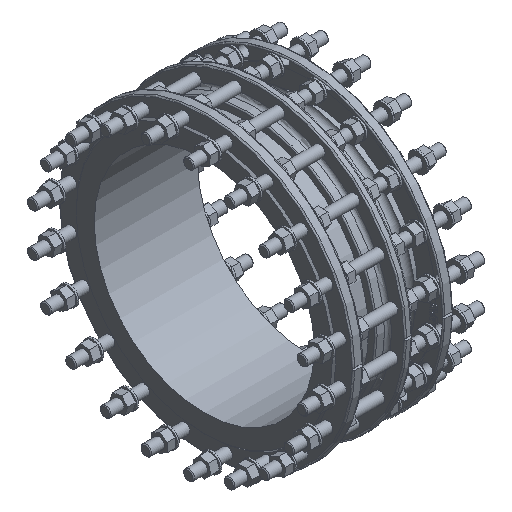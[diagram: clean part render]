
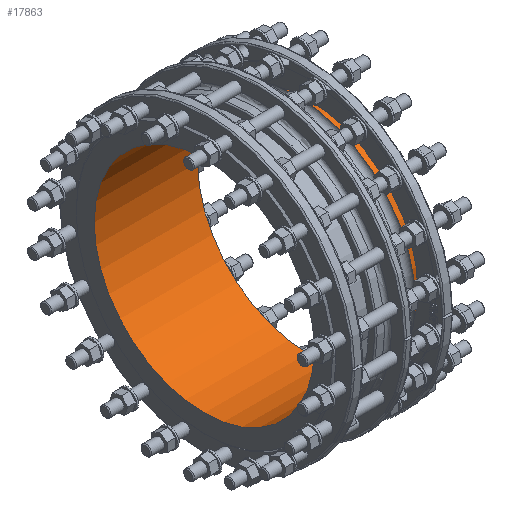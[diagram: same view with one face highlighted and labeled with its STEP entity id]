
A CAD part, isometric view. The second image highlights one B-rep face of the part: STEP entity #17863.
In plain terms, the highlighted cylindrical face has radius 250 mm (diameter 500 mm), a full revolution.
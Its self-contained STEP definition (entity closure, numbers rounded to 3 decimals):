
#2181 = CIRCLE ( 'NONE', #6721, 250. ) ;
#3681 = DIRECTION ( 'NONE',  ( 0., 0., 1. ) ) ;
#3857 = CYLINDRICAL_SURFACE ( 'NONE', #10489, 250. ) ;
#6091 = EDGE_CURVE ( 'NONE', #31946, #31946, #2181, .T. ) ;
#6717 = ORIENTED_EDGE ( 'NONE', *, *, #6091, .F. ) ;
#6721 = AXIS2_PLACEMENT_3D ( 'NONE', #26314, #19543, #30190 ) ;
#7083 = AXIS2_PLACEMENT_3D ( 'NONE', #14660, #11644, #33639 ) ;
#9162 = CARTESIAN_POINT ( 'NONE',  ( 0., 0., 0. ) ) ;
#10489 = AXIS2_PLACEMENT_3D ( 'NONE', #9162, #22652, #3681 ) ;
#10656 = CARTESIAN_POINT ( 'NONE',  ( 215., 0., 250. ) ) ;
#11644 = DIRECTION ( 'NONE',  ( 1., 0., 0. ) ) ;
#14660 = CARTESIAN_POINT ( 'NONE',  ( -20., 0., 0. ) ) ;
#17863 = ADVANCED_FACE ( 'NONE', ( #19637, #30633 ), #3857, .F. ) ;
#18995 = VERTEX_POINT ( 'NONE', #21656 ) ;
#19543 = DIRECTION ( 'NONE',  ( -1., 0., 0. ) ) ;
#19637 = FACE_OUTER_BOUND ( 'NONE', #33533, .T. ) ;
#21656 = CARTESIAN_POINT ( 'NONE',  ( -20., 0., -250. ) ) ;
#22279 = ORIENTED_EDGE ( 'NONE', *, *, #31478, .F. ) ;
#22652 = DIRECTION ( 'NONE',  ( -1., 0., 0. ) ) ;
#24654 = CIRCLE ( 'NONE', #7083, 250. ) ;
#26314 = CARTESIAN_POINT ( 'NONE',  ( 215., 0., 0. ) ) ;
#30190 = DIRECTION ( 'NONE',  ( 0., 0., 1. ) ) ;
#30633 = FACE_OUTER_BOUND ( 'NONE', #32899, .T. ) ;
#31478 = EDGE_CURVE ( 'NONE', #18995, #18995, #24654, .T. ) ;
#31946 = VERTEX_POINT ( 'NONE', #10656 ) ;
#32899 = EDGE_LOOP ( 'NONE', ( #22279 ) ) ;
#33533 = EDGE_LOOP ( 'NONE', ( #6717 ) ) ;
#33639 = DIRECTION ( 'NONE',  ( 0., 0., -1. ) ) ;
